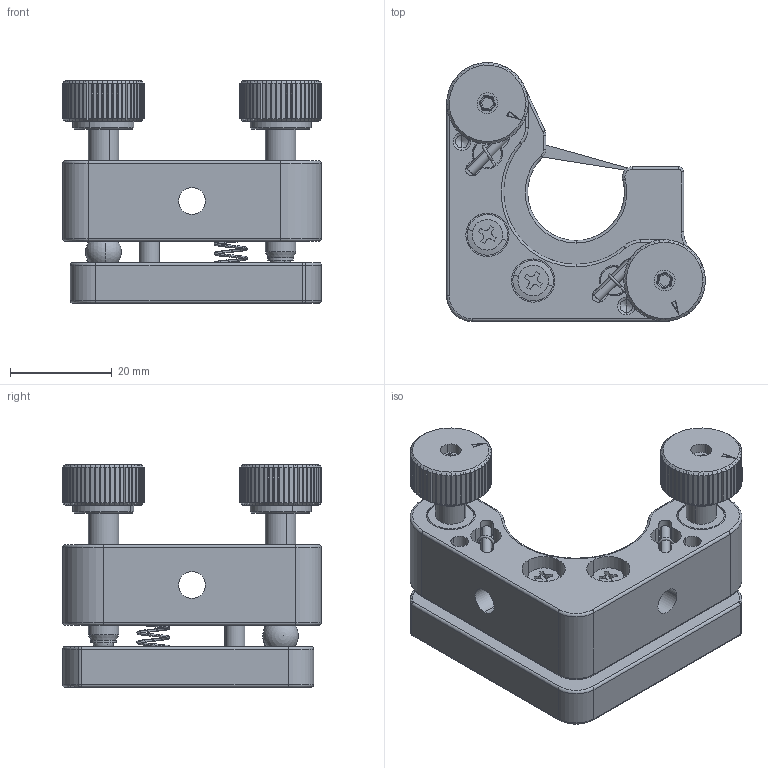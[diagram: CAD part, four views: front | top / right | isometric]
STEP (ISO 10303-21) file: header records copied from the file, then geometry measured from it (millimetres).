
FILE_DESCRIPTION (( 'STEP AP203' ), '1' );
FILE_NAME ('M-TNC-08R-HOX.STEP', '2020-07-14T03:20:31', ( '匠星' ), ( '' ), 'SwSTEP 2.0', 'SolidWorks 2019', '' );
FILE_SCHEMA (( 'CONFIG_CONTROL_DESIGN' ));
Products named in the file (2): M-TNC-08R-HOX
Bounding box: 50.8 x 50.8 x 43.74 mm (x, y, z)
Surface area: 16908 mm2 (no closed solid volume)
Topology: 0 solids, 20 shells, 975 faces, 2473 edges, 1560 vertices
Faces by surface type: cylinder 413, plane 387, torus 85, cone 60, sphere 24, bspline 6
Entity records: 34394 total; most frequent: CARTESIAN_POINT 11264, ORIENTED_EDGE 4860, DIRECTION 4811, EDGE_CURVE 2433, AXIS2_PLACEMENT_3D 1921, VERTEX_POINT 1552, EDGE_LOOP 1057, ADVANCED_FACE 975
